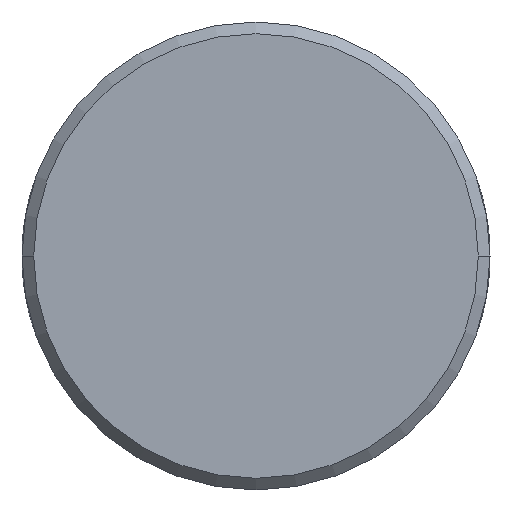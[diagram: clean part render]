
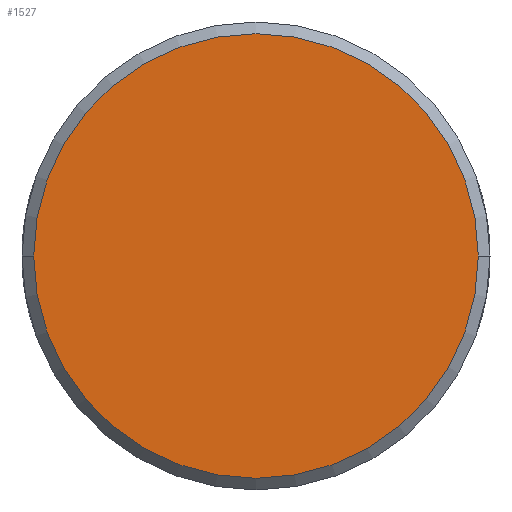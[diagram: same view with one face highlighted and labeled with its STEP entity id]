
A CAD part, front view. The second image highlights one B-rep face of the part: STEP entity #1527.
In plain terms, the highlighted planar face has unit normal (0, -1, 0).
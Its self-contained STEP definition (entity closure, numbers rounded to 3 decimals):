
#1=CARTESIAN_POINT('',(0.,-20.,0.));
#2=DIRECTION('',(0.,-1.,0.));
#3=DIRECTION('',(-1.,0.,0.));
#4=AXIS2_PLACEMENT_3D('',#1,#2,#3);
#6=CARTESIAN_POINT('',(0.,-20.,0.));
#7=DIRECTION('',(0.,-1.,0.));
#8=DIRECTION('',(1.,0.,0.));
#9=AXIS2_PLACEMENT_3D('',#6,#7,#8);
#1433=CARTESIAN_POINT('',(-5.7,-20.,0.));
#1434=CARTESIAN_POINT('',(5.7,-20.,0.));
#1435=VERTEX_POINT('',#1433);
#1436=VERTEX_POINT('',#1434);
#1516=CARTESIAN_POINT('',(0.,-20.,0.));
#1517=DIRECTION('',(0.,1.,0.));
#1518=DIRECTION('',(1.,0.,0.));
#1519=AXIS2_PLACEMENT_3D('',#1516,#1517,#1518);
#1520=PLANE('',#1519);
#1522=ORIENTED_EDGE('',*,*,#1521,.F.);
#1524=ORIENTED_EDGE('',*,*,#1523,.F.);
#1525=EDGE_LOOP('',(#1522,#1524));
#1526=FACE_OUTER_BOUND('',#1525,.F.);
#1527=ADVANCED_FACE('',(#1526),#1520,.F.);
#5=CIRCLE('',#4,5.7);
#10=CIRCLE('',#9,5.7);
#1521=EDGE_CURVE('',#1435,#1436,#5,.T.);
#1523=EDGE_CURVE('',#1436,#1435,#10,.T.);
